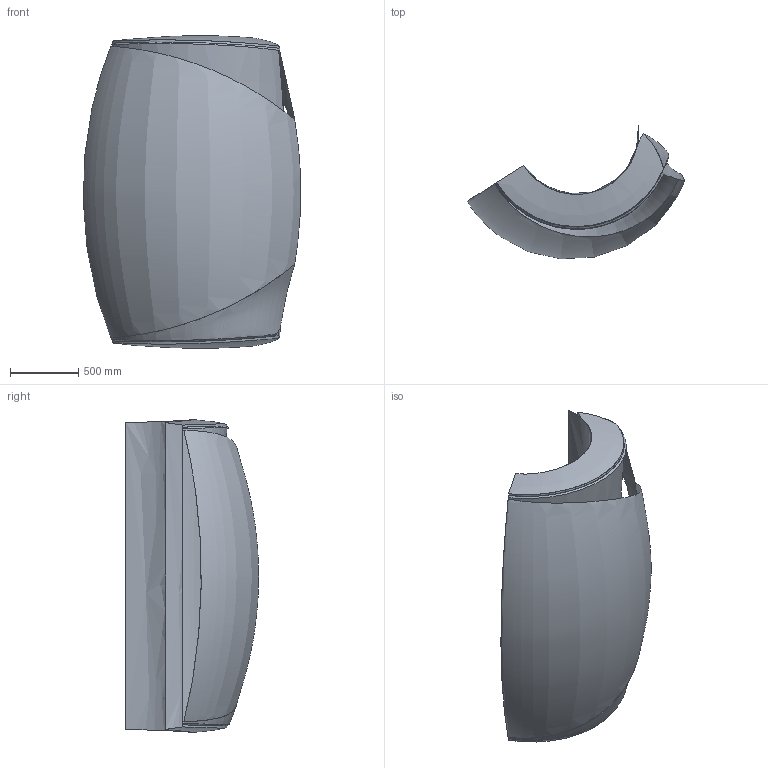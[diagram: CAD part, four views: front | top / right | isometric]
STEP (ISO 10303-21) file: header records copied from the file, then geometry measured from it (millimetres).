
FILE_DESCRIPTION((''),'2;1');
FILE_NAME('RUNDUNGSPROBLEM','2006-11-20T',('vhammerschmidt'),(''),'PRO/ENGINEER BY PARAMETRIC TECHNOLOGY CORPORATION, 2006020','PRO/ENGINEER BY PARAMETRIC TECHNOLOGY CORPORATION, 2006020','');
FILE_SCHEMA(('CONFIG_CONTROL_DESIGN'));
Length unit declared in the file: millimetre
Products named in the file (1): RUNDUNGSPROBLEM
Bounding box: 1587.77 x 973.35 x 2282.42 mm (x, y, z)
Surface area: 11230877.7 mm2 (no closed solid volume)
Topology: 0 solids, 0 shells, 17 faces, 84 edges, 84 vertices
Faces by surface type: bspline 17
Entity records: 23988 total; most frequent: CARTESIAN_POINT 23329, B_SPLINE_CURVE_WITH_KNOTS 96, DEFINITIONAL_REPRESENTATION 84, PCURVE 84, COMPOSITE_CURVE_SEGMENT 84, DIRECTION 57, TRIMMED_CURVE 53, VECTOR 49
